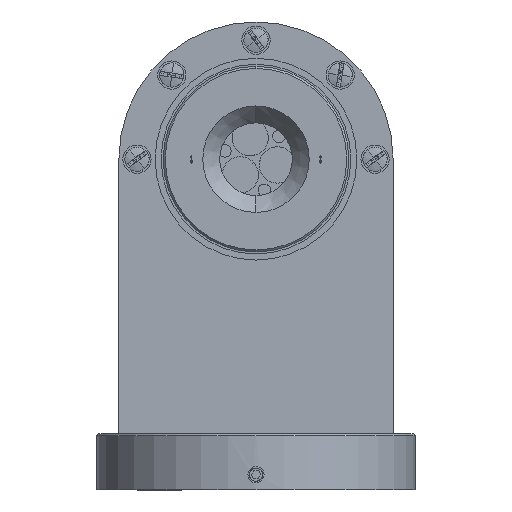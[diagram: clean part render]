
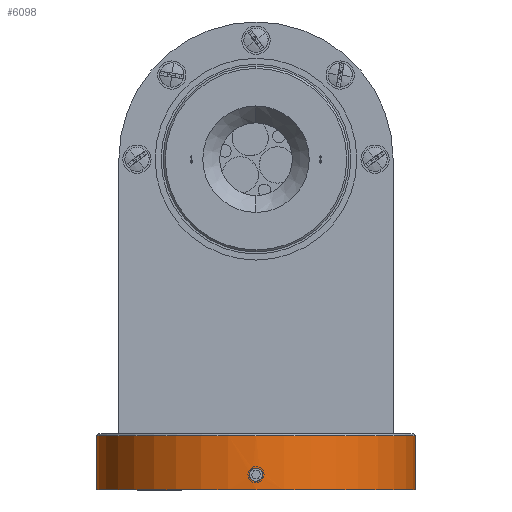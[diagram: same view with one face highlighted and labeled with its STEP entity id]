
A CAD part, front view. The second image highlights one B-rep face of the part: STEP entity #6098.
In plain terms, the highlighted cylindrical face has radius 39.5 mm (diameter 79 mm), a partial arc.
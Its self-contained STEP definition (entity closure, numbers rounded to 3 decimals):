
#85 = CARTESIAN_POINT ( 'NONE',  ( -39.5, 0., 6.5 ) ) ;
#542 = CARTESIAN_POINT ( 'NONE',  ( -0.108, -39.5, -1.55 ) ) ;
#629 = CARTESIAN_POINT ( 'NONE',  ( -0.109, -39.5, -4.85 ) ) ;
#860 = CARTESIAN_POINT ( 'NONE',  ( 1.433, -39.474, -4.025 ) ) ;
#932 = CARTESIAN_POINT ( 'NONE',  ( 0., -39.5, -1.55 ) ) ;
#1007 = CARTESIAN_POINT ( 'NONE',  ( 0.218, -39.5, -4.85 ) ) ;
#1096 = CARTESIAN_POINT ( 'NONE',  ( 1.312, -39.478, -2.193 ) ) ;
#1212 = EDGE_CURVE ( 'NONE', #13412, #10925, #5624, .T. ) ;
#1754 = AXIS2_PLACEMENT_3D ( 'NONE', #4803, #4554, #2396 ) ;
#1802 = VECTOR ( 'NONE', #10791, 1000. ) ;
#1812 = CARTESIAN_POINT ( 'NONE',  ( -1.006, -39.487, -1.888 ) ) ;
#1853 = LINE ( 'NONE', #6078, #1802 ) ;
#2190 = CARTESIAN_POINT ( 'NONE',  ( 0., -39.5, -1.55 ) ) ;
#2274 = ORIENTED_EDGE ( 'NONE', *, *, #6819, .T. ) ;
#2396 = DIRECTION ( 'NONE',  ( 1., 0., 0. ) ) ;
#2840 = ORIENTED_EDGE ( 'NONE', *, *, #5756, .T. ) ;
#2870 = CARTESIAN_POINT ( 'NONE',  ( -0.531, -39.497, -1.634 ) ) ;
#2948 = CARTESIAN_POINT ( 'NONE',  ( -1.244, -39.48, -2.111 ) ) ;
#3018 = CARTESIAN_POINT ( 'NONE',  ( -1.597, -39.468, -2.772 ) ) ;
#3184 = CARTESIAN_POINT ( 'NONE',  ( 1.242, -39.481, -2.108 ) ) ;
#3307 = FACE_OUTER_BOUND ( 'NONE', #3799, .T. ) ;
#3488 = CARTESIAN_POINT ( 'NONE',  ( 0.83, -39.492, -1.758 ) ) ;
#3694 = CARTESIAN_POINT ( 'NONE',  ( 0., -39.5, -4.85 ) ) ;
#3799 = EDGE_LOOP ( 'NONE', ( #9283, #7329, #6073, #10895 ) ) ;
#4108 = VERTEX_POINT ( 'NONE', #5816 ) ;
#4240 = CARTESIAN_POINT ( 'NONE',  ( -0.217, -39.5, -1.561 ) ) ;
#4306 = CARTESIAN_POINT ( 'NONE',  ( -0.427, -39.498, -4.797 ) ) ;
#4387 = CARTESIAN_POINT ( 'NONE',  ( 1.483, -39.472, -3.931 ) ) ;
#4389 = CARTESIAN_POINT ( 'NONE',  ( -1.566, -39.469, -2.669 ) ) ;
#4423 = DIRECTION ( 'NONE',  ( 0., 0., -1. ) ) ;
#4453 = FACE_BOUND ( 'NONE', #15635, .T. ) ;
#4542 = CARTESIAN_POINT ( 'NONE',  ( 1.313, -39.478, -4.205 ) ) ;
#4554 = DIRECTION ( 'NONE',  ( 0., 0., 1. ) ) ;
#4620 = DIRECTION ( 'NONE',  ( 0., 0., -1. ) ) ;
#4625 = CARTESIAN_POINT ( 'NONE',  ( 1.482, -39.472, -2.467 ) ) ;
#4803 = CARTESIAN_POINT ( 'NONE',  ( 0., 0., -7. ) ) ;
#4930 = AXIS2_PLACEMENT_3D ( 'NONE', #9462, #5657, #13062 ) ;
#5459 = VERTEX_POINT ( 'NONE', #10944 ) ;
#5600 = CARTESIAN_POINT ( 'NONE',  ( -1.091, -39.485, -4.443 ) ) ;
#5624 = LINE ( 'NONE', #9355, #10611 ) ;
#5657 = DIRECTION ( 'NONE',  ( 0., 0., -1. ) ) ;
#5663 = AXIS2_PLACEMENT_3D ( 'NONE', #10768, #4620, #14261 ) ;
#5756 = EDGE_CURVE ( 'NONE', #6275, #5459, #15723, .T. ) ;
#5816 = CARTESIAN_POINT ( 'NONE',  ( 39.5, 0., -7. ) ) ;
#5837 = CARTESIAN_POINT ( 'NONE',  ( 0.215, -39.5, -1.55 ) ) ;
#6073 = ORIENTED_EDGE ( 'NONE', *, *, #1212, .T. ) ;
#6078 = CARTESIAN_POINT ( 'NONE',  ( 39.5, 0., 7. ) ) ;
#6098 = ADVANCED_FACE ( 'NONE', ( #3307, #4453 ), #15637, .T. ) ;
#6275 = VERTEX_POINT ( 'NONE', #2190 ) ;
#6474 = CARTESIAN_POINT ( 'NONE',  ( -39.5, 0., -7. ) ) ;
#6490 = CARTESIAN_POINT ( 'NONE',  ( -0.216, -39.5, -4.839 ) ) ;
#6514 = CARTESIAN_POINT ( 'NONE',  ( 39.5, 0., 6.5 ) ) ;
#6561 = CARTESIAN_POINT ( 'NONE',  ( -1.432, -39.474, -2.373 ) ) ;
#6724 = CARTESIAN_POINT ( 'NONE',  ( -1.607, -39.467, -3.633 ) ) ;
#6819 = EDGE_CURVE ( 'NONE', #5459, #6275, #7492, .T. ) ;
#6859 = CARTESIAN_POINT ( 'NONE',  ( 1.015, -39.487, -4.518 ) ) ;
#7101 = CARTESIAN_POINT ( 'NONE',  ( 1.244, -39.48, -4.29 ) ) ;
#7184 = CARTESIAN_POINT ( 'NONE',  ( 1.65, -39.466, -3.416 ) ) ;
#7329 = ORIENTED_EDGE ( 'NONE', *, *, #8032, .T. ) ;
#7492 = B_SPLINE_CURVE_WITH_KNOTS ( 'NONE', 3,
 ( #3694, #629, #6490, #4306, #7985, #9097, #12625, #15182, #5600, #13958, #11657, #6724, #11417, #12857, #9168, #3018, #4389, #15328, #6561, #13884, #2948, #10303, #1812, #7667, #10441, #2870, #7764, #4240, #542, #11492 ),
 .UNSPECIFIED., .F., .F.,
 ( 4, 2, 2, 2, 2, 2, 2, 2, 2, 2, 2, 2, 2, 2, 4 ),
 ( 0., 0., 0.001, 0.001, 0.001, 0.002, 0.003, 0.003, 0.003, 0.004, 0.004, 0.004, 0.005, 0.005, 0.005 ),
 .UNSPECIFIED. ) ;
#7667 = CARTESIAN_POINT ( 'NONE',  ( -0.828, -39.491, -1.769 ) ) ;
#7764 = CARTESIAN_POINT ( 'NONE',  ( -0.429, -39.498, -1.603 ) ) ;
#7985 = CARTESIAN_POINT ( 'NONE',  ( -0.532, -39.497, -4.766 ) ) ;
#8032 = EDGE_CURVE ( 'NONE', #11468, #13412, #8438, .T. ) ;
#8298 = CARTESIAN_POINT ( 'NONE',  ( 1.565, -39.469, -2.667 ) ) ;
#8438 = CIRCLE ( 'NONE', #5663, 39.5 ) ;
#8655 = CIRCLE ( 'NONE', #1754, 39.5 ) ;
#9097 = CARTESIAN_POINT ( 'NONE',  ( -0.732, -39.493, -4.683 ) ) ;
#9168 = CARTESIAN_POINT ( 'NONE',  ( -1.639, -39.466, -2.984 ) ) ;
#9259 = CARTESIAN_POINT ( 'NONE',  ( 1.608, -39.467, -3.63 ) ) ;
#9283 = ORIENTED_EDGE ( 'NONE', *, *, #11599, .F. ) ;
#9355 = CARTESIAN_POINT ( 'NONE',  ( -39.5, 0., 7. ) ) ;
#9399 = CARTESIAN_POINT ( 'NONE',  ( 1.597, -39.468, -2.772 ) ) ;
#9462 = CARTESIAN_POINT ( 'NONE',  ( 0., 0., 7. ) ) ;
#9486 = CARTESIAN_POINT ( 'NONE',  ( 1.65, -39.466, -3.09 ) ) ;
#9858 = EDGE_CURVE ( 'NONE', #10925, #4108, #8655, .T. ) ;
#10303 = CARTESIAN_POINT ( 'NONE',  ( -1.09, -39.485, -1.957 ) ) ;
#10441 = CARTESIAN_POINT ( 'NONE',  ( -0.731, -39.493, -1.717 ) ) ;
#10611 = VECTOR ( 'NONE', #4423, 1000. ) ;
#10768 = CARTESIAN_POINT ( 'NONE',  ( 0., 0., 6.5 ) ) ;
#10773 = CARTESIAN_POINT ( 'NONE',  ( 0.832, -39.492, -4.641 ) ) ;
#10791 = DIRECTION ( 'NONE',  ( 0., 0., -1. ) ) ;
#10853 = CARTESIAN_POINT ( 'NONE',  ( 1.014, -39.487, -1.88 ) ) ;
#10895 = ORIENTED_EDGE ( 'NONE', *, *, #9858, .T. ) ;
#10925 = VERTEX_POINT ( 'NONE', #6474 ) ;
#10944 = CARTESIAN_POINT ( 'NONE',  ( 0., -39.5, -4.85 ) ) ;
#11417 = CARTESIAN_POINT ( 'NONE',  ( -1.65, -39.466, -3.416 ) ) ;
#11468 = VERTEX_POINT ( 'NONE', #6514 ) ;
#11492 = CARTESIAN_POINT ( 'NONE',  ( 0., -39.5, -1.55 ) ) ;
#11599 = EDGE_CURVE ( 'NONE', #11468, #4108, #1853, .T. ) ;
#11657 = CARTESIAN_POINT ( 'NONE',  ( -1.442, -39.474, -4.03 ) ) ;
#11724 = CARTESIAN_POINT ( 'NONE',  ( 0.435, -39.498, -4.806 ) ) ;
#12050 = CARTESIAN_POINT ( 'NONE',  ( 1.639, -39.466, -2.983 ) ) ;
#12625 = CARTESIAN_POINT ( 'NONE',  ( -0.827, -39.491, -4.632 ) ) ;
#12857 = CARTESIAN_POINT ( 'NONE',  ( -1.65, -39.466, -3.093 ) ) ;
#13062 = DIRECTION ( 'NONE',  ( -1., 0., 0. ) ) ;
#13156 = CARTESIAN_POINT ( 'NONE',  ( 1.432, -39.474, -2.373 ) ) ;
#13412 = VERTEX_POINT ( 'NONE', #85 ) ;
#13884 = CARTESIAN_POINT ( 'NONE',  ( -1.312, -39.478, -2.194 ) ) ;
#13958 = CARTESIAN_POINT ( 'NONE',  ( -1.319, -39.478, -4.214 ) ) ;
#14120 = CARTESIAN_POINT ( 'NONE',  ( 0., -39.5, -4.85 ) ) ;
#14261 = DIRECTION ( 'NONE',  ( 1., 0., 0. ) ) ;
#15182 = CARTESIAN_POINT ( 'NONE',  ( -1.006, -39.487, -4.512 ) ) ;
#15328 = CARTESIAN_POINT ( 'NONE',  ( -1.483, -39.472, -2.469 ) ) ;
#15570 = CARTESIAN_POINT ( 'NONE',  ( 0.432, -39.498, -1.593 ) ) ;
#15635 = EDGE_LOOP ( 'NONE', ( #2274, #2840 ) ) ;
#15637 = CYLINDRICAL_SURFACE ( 'NONE', #4930, 39.5 ) ;
#15723 = B_SPLINE_CURVE_WITH_KNOTS ( 'NONE', 3,
 ( #932, #5837, #15570, #3488, #10853, #3184, #1096, #13156, #4625, #8298, #9399, #12050, #9486, #7184, #9259, #4387, #860, #4542, #7101, #6859, #10773, #11724, #1007, #14120 ),
 .UNSPECIFIED., .F., .F.,
 ( 4, 2, 2, 2, 2, 2, 2, 2, 2, 2, 2, 4 ),
 ( 0.005, 0.006, 0.006, 0.007, 0.007, 0.007, 0.008, 0.008, 0.009, 0.009, 0.01, 0.01 ),
 .UNSPECIFIED. ) ;
